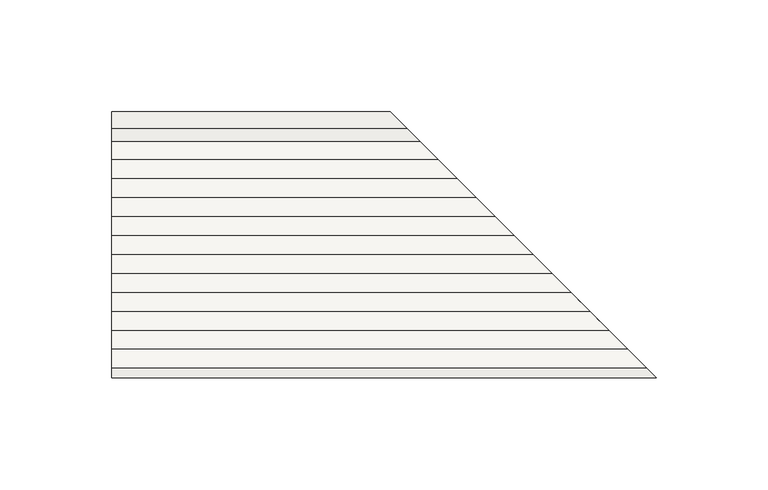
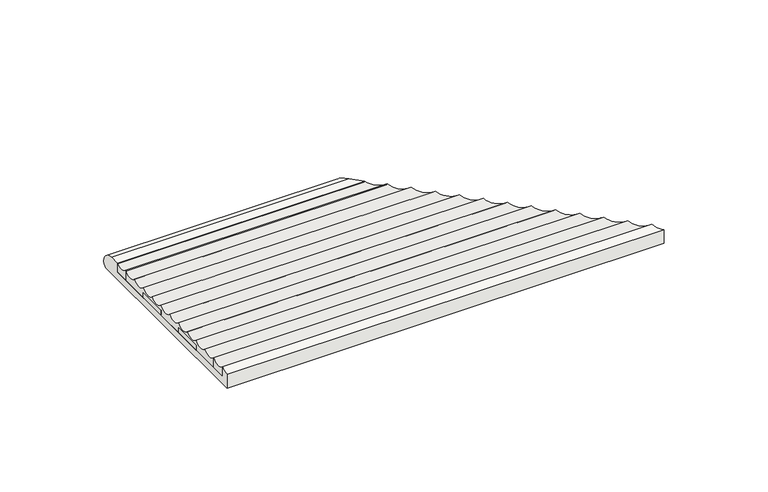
"""IFC4 building model written with IfcOpenShell, lengths in millimetres: slab geometry, ROSA GRES_003 (corte) : Pieza 003_Aqua_Marino_Anti-Slip."""

import ifcopenshell
import ifcopenshell.guid

model = None  # the IFC model being written
_history = None  # IfcOwnerHistory: only IFC2X3 demands one
_inside = {}  # id of a spatial element -> (the spatial element, [elements in it])
_under = {}  # id of a project, library or spatial element -> (it, [spatial elements below it])
_declared = {}  # id of a project -> (the project, [libraries it declares])
_typed = {}  # id of a type object -> (the type object, [elements of that type])
_made_of = {}  # id of a material, layer set ... -> (it, [elements and type objects made of it])


def new_model(schema):
    """Start an empty IFC model of exactly this schema.

    Asked for "IFC4X3", IfcOpenShell would pick the latest addendum, in which some entities
    have other attributes; the version numbers below select the first issue.
    IFC2X3 requires an IfcOwnerHistory on every rooted entity: one is made here for all.
    """
    global model, _history
    if schema == "IFC4X3":
        model = ifcopenshell.file(schema_version=(4, 3, 0, 0))
    else:
        model = ifcopenshell.file(schema=schema)
    _inside.clear()
    _under.clear()
    _declared.clear()
    _typed.clear()
    _made_of.clear()
    _history = None
    if model.schema == "IFC2X3":
        org = make("IfcOrganization", Name="unknown")
        user = make(
            "IfcPersonAndOrganization",
            ThePerson=make("IfcPerson", FamilyName="unknown"),
            TheOrganization=org,
        )
        app = make(
            "IfcApplication",
            ApplicationDeveloper=org,
            Version="unknown",
            ApplicationFullName="unknown",
            ApplicationIdentifier="unknown",
        )
        _history = make(
            "IfcOwnerHistory",
            OwningUser=user,
            OwningApplication=app,
            ChangeAction="ADDED",
            CreationDate=0,
        )
    return model


def make(cls, **values):
    """One entity of the class cls with the attributes given. An attribute that is None is left unset."""
    return model.create_entity(
        cls, **{name: value for name, value in values.items() if value is not None}
    )


def rooted(cls, **values):
    """An entity with a GlobalId (a new one), such as an element, a storey or a relation."""
    return make(cls, GlobalId=ifcopenshell.guid.new(), OwnerHistory=_history, **values)


def si_unit(unit_type, name, prefix=None):
    """IfcSIUnit, for example si_unit("LENGTHUNIT", "METRE", prefix="MILLI")."""
    return make("IfcSIUnit", UnitType=unit_type, Prefix=prefix, Name=name)


def assignment(units):
    """IfcUnitAssignment: the units of a project."""
    return None if units is None else make("IfcUnitAssignment", Units=units)


def point(xyz):
    """IfcCartesianPoint."""
    return None if xyz is None else make("IfcCartesianPoint", Coordinates=xyz)


def direction(xyz):
    """IfcDirection."""
    return None if xyz is None else make("IfcDirection", DirectionRatios=xyz)


def frame(location, z_axis=None, x_axis=None):
    """IfcAxis2Placement3D, a coordinate frame: its origin and axes. An axis left out is left unset."""
    return make(
        "IfcAxis2Placement3D",
        Location=point(location),
        Axis=direction(z_axis),
        RefDirection=direction(x_axis),
    )


def origin():
    """The frame at (0, 0, 0) with its axes left unset."""
    return frame((0.0, 0.0, 0.0))


def place(relative_to, where):
    """IfcLocalPlacement: puts the frame where relative to a parent placement (None: the world)."""
    return make(
        "IfcLocalPlacement", PlacementRelTo=relative_to, RelativePlacement=where
    )


def context(
    kind, dimensions, precision=None, world=None, true_north=None, identifier=None
):
    """IfcGeometricRepresentationContext, for example the 3D "Model" context."""
    return make(
        "IfcGeometricRepresentationContext",
        ContextIdentifier=identifier,
        ContextType=kind,
        CoordinateSpaceDimension=dimensions,
        Precision=precision,
        WorldCoordinateSystem=world,
        TrueNorth=true_north,
    )


def project(units=None, contexts=None):
    """IfcProject with its units and contexts."""
    return rooted(
        "IfcProject",
        Name="project",
        RepresentationContexts=contexts,
        UnitsInContext=assignment(units),
    )


def spatial(cls, under=None, at=None, **own):
    """A site, building, storey or space (cls), placed at a placement, below another one or the project."""
    s = rooted(cls, ObjectPlacement=at, **own)
    if under is not None:
        _under.setdefault(under.id(), (under, []))[1].append(s)
    return s


def polyline(points):
    """IfcPolyline through the points."""
    return make("IfcPolyline", Points=[point(p) for p in points])


def circle_curve(where, radius):
    """IfcCircle in the frame where."""
    return make("IfcCircle", Position=where, Radius=radius)


def ellipse_curve(where, semi_axis1, semi_axis2):
    """IfcEllipse in the frame where."""
    return make(
        "IfcEllipse", Position=where, SemiAxis1=semi_axis1, SemiAxis2=semi_axis2
    )


def faces_of(points, faces, orient=None, outer=None):
    """IfcFace entities. A face is a list of loops; a loop is a list of indices into points, from 0.

    orient and outer hold one flag for each loop. By default every Orientation is true, the
    first loop of a face is its IfcFaceOuterBound and the others are IfcFaceBound.
    """
    made = []
    for i, loops in enumerate(faces):
        bounds = []
        for j, loop in enumerate(loops):
            is_outer = j == 0 if outer is None else outer[i][j]
            bounds.append(
                make(
                    "IfcFaceOuterBound" if is_outer else "IfcFaceBound",
                    Bound=make("IfcPolyLoop", Polygon=[points[k] for k in loop]),
                    Orientation=True if orient is None else orient[i][j],
                )
            )
        made.append(make("IfcFace", Bounds=bounds))
    return made


def faceted_brep(points, faces, orient=None, outer=None, voids=None):
    """IfcFacetedBrep: a solid bounded by flat faces; with voids (closed shells), ...WithVoids."""
    shared = [point(p) for p in points]
    hull = make("IfcClosedShell", CfsFaces=faces_of(shared, faces, orient, outer))
    if voids is None:
        return make("IfcFacetedBrep", Outer=hull)
    return make(
        "IfcFacetedBrepWithVoids",
        Outer=hull,
        Voids=[
            make(cls, CfsFaces=faces_of(shared, fs, o, b)) for cls, fs, o, b in voids
        ],
    )


def shape(context_of_items, identifier, shape_type, items):
    """IfcShapeRepresentation: the items that make up one representation, for example the "Body"."""
    return make(
        "IfcShapeRepresentation",
        ContextOfItems=context_of_items,
        RepresentationIdentifier=identifier,
        RepresentationType=shape_type,
        Items=items,
    )


def source(mapping_origin, context_of_items, identifier, shape_type, items):
    """IfcRepresentationMap: a shape defined once, which mapped items show again and again."""
    return make(
        "IfcRepresentationMap",
        MappingOrigin=mapping_origin,
        MappedRepresentation=shape(context_of_items, identifier, shape_type, items),
    )


def transform(
    local_origin,
    x_axis=None,
    y_axis=None,
    z_axis=None,
    scale=None,
    scale2=None,
    scale3=None,
    uniform=True,
):
    """IfcCartesianTransformationOperator3D, or its non-uniform kind. x_axis, y_axis, z_axis: its Axis1, 2, 3."""
    if uniform:
        return make(
            "IfcCartesianTransformationOperator3D",
            Axis1=direction(x_axis),
            Axis2=direction(y_axis),
            LocalOrigin=point(local_origin),
            Scale=scale,
            Axis3=direction(z_axis),
        )
    return make(
        "IfcCartesianTransformationOperator3DnonUniform",
        Axis1=direction(x_axis),
        Axis2=direction(y_axis),
        LocalOrigin=point(local_origin),
        Scale=scale,
        Axis3=direction(z_axis),
        Scale2=scale2,
        Scale3=scale3,
    )


def mapped(mapping_source, mapping_target):
    """IfcMappedItem: shows the shape of a source again, moved by a transform."""
    return make(
        "IfcMappedItem", MappingSource=mapping_source, MappingTarget=mapping_target
    )


def made_of(thing, what):
    """Note that an element or type object is made of a material, layer set ...; save() writes the relation."""
    if what is not None:
        _made_of.setdefault(what.id(), (what, []))[1].append(thing)
    return thing


def element(
    cls,
    number,
    at=None,
    inside=None,
    cuts=None,
    type_object=None,
    material=None,
    context=None,
    identifier="Body",
    shape_type=None,
    held_by="IfcProductDefinitionShape",
    body=None,
    shapes=None,
    **own,
):
    """One element of the class cls, such as IfcWall. Its Tag is "e" and its number.

    at: its placement. inside: the storey or other place that contains it. cuts: it is an
    opening in that element (IfcRelVoidsElement). A single representation is given by context,
    identifier, shape_type and body (its items); several are given by shapes. held_by: the class
    of the entity that holds the representations. save() writes the other relations.
    """
    e = rooted(cls, Tag="e%d" % number, ObjectPlacement=at, **own)
    if body is not None:
        shapes = [shape(context, identifier, shape_type, body)]
    if shapes is not None:
        e.Representation = make(held_by, Representations=shapes)
    if inside is not None:
        _inside.setdefault(inside.id(), (inside, []))[1].append(e)
    if cuts is not None:
        rooted(
            "IfcRelVoidsElement", RelatingBuildingElement=cuts, RelatedOpeningElement=e
        )
    if type_object is not None:
        _typed.setdefault(type_object.id(), (type_object, []))[1].append(e)
    return made_of(e, material)


def aggregate(whole, parts):
    """IfcRelAggregates: a whole, such as a stair, and the parts it consists of."""
    return rooted("IfcRelAggregates", RelatingObject=whole, RelatedObjects=parts)


def save(model, path):
    """Write the relations noted so far, then the file.

    IfcRelAggregates (storeys below a building ...), IfcRelContainedInSpatialStructure (elements
    in a storey), IfcRelDefinesByType, IfcRelAssociatesMaterial and IfcRelDeclares: one each for
    every whole, place, type object, material and project.
    """
    for whole, parts in _under.values():
        aggregate(whole, parts)
    for where, things in _inside.values():
        rooted(
            "IfcRelContainedInSpatialStructure",
            RelatedElements=things,
            RelatingStructure=where,
        )
    for kind, things in _typed.values():
        rooted("IfcRelDefinesByType", RelatedObjects=things, RelatingType=kind)
    for what, things in _made_of.values():
        rooted("IfcRelAssociatesMaterial", RelatedObjects=things, RelatingMaterial=what)
    for by, libraries in _declared.values():
        rooted("IfcRelDeclares", RelatingContext=by, RelatedDefinitions=libraries)
    model.write(path)


def plane_surface(at):
    """IfcPlane: the flat surface through the origin of the frame at, square to its z axis."""
    return make("IfcPlane", Position=at)


def cylinder_surface(at, radius):
    """IfcCylindricalSurface: all points at the distance radius from the z axis of the frame at."""
    return make("IfcCylindricalSurface", Position=at, Radius=radius)


def revolved_surface(curve, axis_point, axis_direction):
    """IfcSurfaceOfRevolution: the curve turned about the line through axis_point along axis_direction."""
    return make(
        "IfcSurfaceOfRevolution",
        SweptCurve=make("IfcArbitraryOpenProfileDef", ProfileType="CURVE", Curve=curve),
        AxisPosition=make("IfcAxis1Placement", Location=point(axis_point), Axis=direction(axis_direction)),
    )


def advanced_brep(points, edges, surfaces, faces):
    """IfcAdvancedBrep: a solid bounded by faces that lie on surfaces and meet in shared edges.

    An edge is (start, end): straight between two places in points (the first is 0);
    or (start, end, curve); or (start, end, curve, False) where it runs against its curve.
    A face is (place in surfaces, loops), or (place, loops, False) where it looks against
    its surface's normal. A loop lists edges by number (the first is 1), with a minus sign
    where the edge is run from its end to its start. The first loop is the outer one.
    """
    corners = [point(p) for p in points]
    vertices = [make("IfcVertexPoint", VertexGeometry=c) for c in corners]
    made = []
    for start, end, *more in edges:
        made.append(
            make(
                "IfcEdgeCurve",
                EdgeStart=vertices[start],
                EdgeEnd=vertices[end],
                EdgeGeometry=more[0] if more else make("IfcPolyline", Points=[corners[start], corners[end]]),
                SameSense=more[1] if len(more) > 1 else True,
            )
        )
    hull = []
    for where, loops, *sense in faces:
        bounds = []
        for j, loop in enumerate(loops):
            ring = [make("IfcOrientedEdge", EdgeElement=made[abs(k) - 1], Orientation=k > 0) for k in loop]
            bounds.append(
                make(
                    "IfcFaceOuterBound" if j == 0 else "IfcFaceBound",
                    Bound=make("IfcEdgeLoop", EdgeList=ring),
                    Orientation=True,
                )
            )
        hull.append(make("IfcAdvancedFace", Bounds=bounds, FaceSurface=surfaces[where], SameSense=sense[0] if sense else True))
    return make("IfcAdvancedBrep", Outer=make("IfcClosedShell", CfsFaces=hull))


def slab_e21bdb14(model_context):
    return source(origin(), model_context, "Body", "SolidModel", [
        advanced_brep(
        [(0.0, -7.6663965, 9.4971975), (0.0, -0.0244803, 2.9846331), (0.0, -0.5667365, 1.309592), (0.0, -1.8763284, 0.0), (0.0, -118.9413691, 0.0), (0.0, -118.9413691, 8.0603545), (0.0, -114.6668888, 10.0472945), (0.0, -114.6668888, 4.0921512), (0.0, -13.1748183, 4.0921512), (0.0, -13.1748183, 9.4971975), (137.7334492, -13.1748183, 9.4971975), (132.2250275, -7.6663965, 9.4971975), (243.5, -118.9413691, 8.0603545), (239.2255197, -114.6668888, 10.0472945), (243.5, -118.9413691, 0.0), (126.4349593, -1.8763284, 0.0), (125.1253674, -0.5667365, 1.309592), (124.5831112, -0.0244803, 2.9846331), (137.7334492, -13.1748183, 4.0921512), (239.2255197, -114.6668888, 4.0921512)],
        [
            (0, 1, circle_curve(frame((0.0, -7.6663965, 1.7573601), z_axis=(-1.0, 0.0, 0.0), x_axis=(0.0, -1.0, 0.0)), 7.7398374)),
            (1, 2, circle_curve(frame((0.0, -1.9349594, 2.6778148), z_axis=(-1.0, 0.0, 0.0), x_axis=(0.0, -1.0, 0.0)), 1.9349594)),
            (2, 3),
            (3, 4),
            (4, 5),
            (5, 6, circle_curve(frame((0.0, -118.9413691, 13.6516438), z_axis=(1.0, 0.0, 0.0), x_axis=(0.0, -1.0, 0.0)), 5.5912893)),
            (6, 7),
            (7, 8),
            (8, 9),
            (9, 0),
            (9, 10),
            (10, 11),
            (11, 0),
            (5, 12),
            (12, 13, ellipse_curve(frame((243.5, -118.9413691, 13.6516438), z_axis=(0.7071067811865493, 0.7071067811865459, 0.0), x_axis=(0.7071067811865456, -0.7071067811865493, 0.0)), 7.9072771, 5.5912893)),
            (13, 6),
            (4, 14),
            (14, 12),
            (3, 15),
            (15, 14),
            (2, 16),
            (16, 15),
            (1, 17),
            (17, 16, ellipse_curve(frame((126.4935903, -1.9349594, 2.6778148), z_axis=(-0.7071067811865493, -0.7071067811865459, 0.0), x_axis=(-0.7071067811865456, 0.7071067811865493, 0.0)), 2.7364458, 1.9349594)),
            (11, 17, ellipse_curve(frame((132.2250275, -7.6663965, 1.7573601), z_axis=(-0.7071067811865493, -0.7071067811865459, 0.0), x_axis=(-0.7071067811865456, 0.7071067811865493, 0.0)), 10.945783, 7.7398374)),
            (8, 18),
            (18, 10),
            (7, 19),
            (19, 18),
            (13, 19),
        ],
        [
            plane_surface(frame((0.0, 0.0, 0.0), z_axis=(-1.0, 0.0, 0.0), x_axis=(0.0, 0.0, 1.0))),
            plane_surface(frame((0.0, -7.6663965, 9.4971975), z_axis=(0.0, 0.0, 1.0), x_axis=(1.0, 0.0, 0.0))),
            revolved_surface(polyline([(249.09128925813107, -124.5326584, 13.6516438), (0.0, -124.5326584, 13.6516438)]), (0.0, -118.9413691, 13.6516438), (1.0, 0.0, 0.0)),
            plane_surface(frame((0.0, -118.9413691, 8.0603545), z_axis=(0.0, -1.0, 0.0), x_axis=(1.0, 0.0, 0.0))),
            plane_surface(frame((0.0, -118.9413691, 0.0), z_axis=(0.0, 0.0, -1.0), x_axis=(1.0, 0.0, 0.0))),
            plane_surface(frame((0.0, -1.8763284, 0.0), z_axis=(0.0, 0.707106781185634, -0.7071067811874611), x_axis=(1.0, 0.0, 0.0))),
            cylinder_surface(frame((0.0, -1.9349594, 2.6778148), z_axis=(-1.0, 0.0, 0.0), x_axis=(0.0, -1.0, 0.0)), 1.9349594),
            cylinder_surface(frame((0.0, -7.6663965, 1.7573601), z_axis=(-1.0, 0.0, 0.0), x_axis=(0.0, -1.0, 0.0)), 7.7398374),
            plane_surface(frame((0.0, -13.1748183, 9.4971975), z_axis=(0.0, -1.0, 0.0), x_axis=(1.0, 0.0, 0.0))),
            plane_surface(frame((0.0, -13.1748183, 4.0921512), z_axis=(0.0, 0.0, 1.0), x_axis=(1.0, 0.0, 0.0))),
            plane_surface(frame((0.0, -114.6668888, 4.0921512), z_axis=(0.0, 1.0, 0.0), x_axis=(1.0, 0.0, 0.0))),
            plane_surface(frame((244.0, -119.4413691, 104.9871832), z_axis=(0.7071067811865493, 0.7071067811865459, 0.0), x_axis=(0.0, 0.0, -1.0))),
        ],
        [
            (0, [[1, 2, 3, 4, 5, 6, 7, 8, 9, 10]]),
            (1, [[11, 12, 13, -10]]),
            (2, [[14, 15, 16, -6]]),
            (3, [[17, 18, -14, -5]]),
            (4, [[19, 20, -17, -4]]),
            (5, [[21, 22, -19, -3]]),
            (6, [[23, 24, -21, -2]]),
            (7, [[-13, 25, -23, -1]]),
            (8, [[26, 27, -11, -9]]),
            (9, [[28, 29, -26, -8]]),
            (10, [[-16, 30, -28, -7]]),
            (11, [[-27, -29, -30, -15, -18, -20, -22, -24, -25, -12]]),
        ],
    ),
        advanced_brep(
        [(0.0, -13.1748183, 9.5193792), (0.0, -13.1748183, 4.0921512), (0.0, -21.1668888, 4.0921512), (0.0, -21.1668888, 9.9900186), (145.7255197, -21.1668888, 9.9900186), (137.7334492, -13.1748183, 9.5193792), (145.7255197, -21.1668888, 4.0921512), (137.7334492, -13.1748183, 4.0921512)],
        [
            (0, 1),
            (1, 2),
            (2, 3),
            (3, 0, circle_curve(frame((0.0, -16.9413691, 13.6516438), z_axis=(1.0, 0.0, 0.0), x_axis=(0.0, -1.0, 0.0)), 5.5912893)),
            (3, 4),
            (4, 5, ellipse_curve(frame((141.5, -16.9413691, 13.6516438), z_axis=(0.7071067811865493, 0.7071067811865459, 0.0), x_axis=(0.7071067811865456, -0.7071067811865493, 0.0)), 7.9072771, 5.5912893)),
            (5, 0),
            (2, 6),
            (6, 4),
            (1, 7),
            (7, 6),
            (5, 7),
        ],
        [
            plane_surface(frame((0.0, 0.0, 0.0), z_axis=(-1.0, 0.0, 0.0), x_axis=(0.0, 0.0, 1.0))),
            revolved_surface(polyline([(147.09128925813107, -22.5326584, 13.6516438), (0.0, -22.5326584, 13.6516438)]), (0.0, -16.9413691, 13.6516438), (1.0, 0.0, 0.0)),
            plane_surface(frame((0.0, -21.1668888, 9.9900186), z_axis=(0.0, -1.0, 0.0), x_axis=(1.0, 0.0, 0.0))),
            plane_surface(frame((0.0, -21.1668888, 4.0921512), z_axis=(0.0, 0.0, -1.0), x_axis=(1.0, 0.0, 0.0))),
            plane_surface(frame((0.0, -13.1748183, 4.0921512), z_axis=(0.0, 1.0, 0.0), x_axis=(1.0, 0.0, 0.0))),
            plane_surface(frame((244.0, -119.4413691, 104.9871832), z_axis=(0.7071067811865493, 0.7071067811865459, 0.0), x_axis=(0.0, 0.0, -1.0))),
        ],
        [
            (0, [[1, 2, 3, 4]]),
            (1, [[5, 6, 7, -4]]),
            (2, [[8, 9, -5, -3]]),
            (3, [[10, 11, -8, -2]]),
            (4, [[-7, 12, -10, -1]]),
            (5, [[-9, -11, -12, -6]]),
        ],
    ),
        advanced_brep(
        [(0.0, -106.1668888, 10.0472945), (0.0, -106.1668888, 4.0921512), (0.0, -114.6913691, 4.0921512), (0.0, -114.6913691, 10.0184612), (239.25, -114.6913691, 10.0184612), (230.7255197, -106.1668888, 10.0472945), (230.7255197, -106.1668888, 4.0921512), (239.25, -114.6913691, 4.0921512)],
        [
            (0, 1),
            (1, 2),
            (2, 3),
            (3, 0, circle_curve(frame((0.0, -110.4413691, 13.6516438), z_axis=(1.0, 0.0, 0.0), x_axis=(0.0, -1.0, 0.0)), 5.5912893)),
            (3, 4),
            (4, 5, ellipse_curve(frame((235.0, -110.4413691, 13.6516438), z_axis=(0.7071067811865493, 0.7071067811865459, 0.0), x_axis=(0.7071067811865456, -0.7071067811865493, 0.0)), 7.9072771, 5.5912893)),
            (5, 0),
            (1, 6),
            (6, 7),
            (7, 2),
            (5, 6),
            (7, 4),
        ],
        [
            plane_surface(frame((0.0, 0.0, 0.0), z_axis=(-1.0, 0.0, 0.0), x_axis=(0.0, 0.0, 1.0))),
            revolved_surface(polyline([(240.59128925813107, -116.0326584, 13.6516438), (0.0, -116.0326584, 13.6516438)]), (0.0, -110.4413691, 13.6516438), (1.0, 0.0, 0.0)),
            plane_surface(frame((0.0, -114.6913691, 4.0921512), z_axis=(0.0, 0.0, -1.0), x_axis=(1.0, 0.0, 0.0))),
            plane_surface(frame((0.0, -106.1668888, 4.0921512), z_axis=(0.0, 1.0, 0.0), x_axis=(1.0, 0.0, 0.0))),
            plane_surface(frame((0.0, -114.6913691, 10.0184612), z_axis=(0.0, -1.0, 0.0), x_axis=(1.0, 0.0, 0.0))),
            plane_surface(frame((244.0, -119.4413691, 104.9871832), z_axis=(0.7071067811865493, 0.7071067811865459, 0.0), x_axis=(0.0, 0.0, -1.0))),
        ],
        [
            (0, [[1, 2, 3, 4]]),
            (1, [[5, 6, 7, -4]]),
            (2, [[8, 9, 10, -2]]),
            (3, [[-7, 11, -8, -1]]),
            (4, [[-10, 12, -5, -3]]),
            (5, [[-12, -9, -11, -6]]),
        ],
    ),
        faceted_brep([(0.0, -38.1668888, 4.0921512), (0.0, -55.1668888, 4.0921512), (0.0, -55.1668888, 7.0184612), (0.0, -38.1668888, 7.0184612), (162.7255197, -38.1668888, 7.0184612), (162.7255197, -38.1668888, 4.0921512), (179.7255197, -55.1668888, 7.0184612), (179.7255197, -55.1668888, 4.0921512)], [[[0, 1, 2, 3]], [[3, 4, 5, 0]], [[2, 6, 4, 3]], [[1, 7, 6, 2]], [[0, 5, 7, 1]], [[4, 6, 7, 5]]]),
        faceted_brep([(0.0, -72.1668888, 4.0921512), (0.0, -89.1668888, 4.0921512), (0.0, -89.1668888, 7.0184612), (0.0, -72.1668888, 7.0184612), (196.7255197, -72.1668888, 4.0921512), (213.7255197, -89.1668888, 4.0921512), (196.7255197, -72.1668888, 7.0184612), (213.7255197, -89.1668888, 7.0184612)], [[[0, 1, 2, 3]], [[0, 4, 5, 1]], [[3, 6, 4, 0]], [[2, 7, 6, 3]], [[1, 5, 7, 2]], [[4, 6, 7, 5]]]),
        advanced_brep(
        [(0.0, -21.1668888, 10.0472945), (0.0, -21.1668888, 4.0921512), (0.0, -38.1668888, 4.0921512), (0.0, -38.1668888, 7.0184612), (0.0, -55.1668888, 7.0184612), (0.0, -55.1668888, 4.0921512), (0.0, -72.1668888, 4.0921512), (0.0, -72.1668888, 7.0184612), (0.0, -89.1668888, 7.0184612), (0.0, -89.1668888, 4.0921512), (0.0, -106.1668888, 4.0921512), (0.0, -106.1668888, 9.9900186), (0.0, -97.6913691, 10.0184612), (0.0, -89.1913691, 10.0184612), (0.0, -80.6913691, 10.0184612), (0.0, -72.1913691, 10.0184612), (0.0, -63.6913691, 10.0184612), (0.0, -55.1913691, 10.0184612), (0.0, -46.6913691, 10.0184612), (0.0, -38.1913691, 10.0184612), (0.0, -29.6913691, 10.0184612), (154.25, -29.6913691, 10.0184612), (145.7255197, -21.1668888, 10.0472945), (162.75, -38.1913691, 10.0184612), (171.25, -46.6913691, 10.0184612), (179.75, -55.1913691, 10.0184612), (188.25, -63.6913691, 10.0184612), (196.75, -72.1913691, 10.0184612), (205.25, -80.6913691, 10.0184612), (213.75, -89.1913691, 10.0184612), (222.25, -97.6913691, 10.0184612), (230.7255197, -106.1668888, 9.9900186), (230.7255197, -106.1668888, 4.0921512), (213.7255197, -89.1668888, 4.0921512), (213.7255197, -89.1668888, 7.0184612), (196.7255197, -72.1668888, 7.0184612), (196.7255197, -72.1668888, 4.0921512), (179.7255197, -55.1668888, 4.0921512), (179.7255197, -55.1668888, 7.0184612), (162.7255197, -38.1668888, 7.0184612), (162.7255197, -38.1668888, 4.0921512), (145.7255197, -21.1668888, 4.0921512)],
        [
            (0, 1),
            (1, 2),
            (2, 3),
            (3, 4),
            (4, 5),
            (5, 6),
            (6, 7),
            (7, 8),
            (8, 9),
            (9, 10),
            (10, 11),
            (11, 12, circle_curve(frame((0.0, -101.9413691, 13.6516438), z_axis=(1.0, 0.0, 0.0), x_axis=(0.0, -1.0, 0.0)), 5.5912893)),
            (12, 13, circle_curve(frame((0.0, -93.4413691, 13.6516438), z_axis=(1.0, 0.0, 0.0), x_axis=(0.0, -1.0, 0.0)), 5.5912893)),
            (13, 14, circle_curve(frame((0.0, -84.9413691, 13.6516438), z_axis=(1.0, 0.0, 0.0), x_axis=(0.0, -1.0, 0.0)), 5.5912893)),
            (14, 15, circle_curve(frame((0.0, -76.4413691, 13.6516438), z_axis=(1.0, 0.0, 0.0), x_axis=(0.0, -1.0, 0.0)), 5.5912893)),
            (15, 16, circle_curve(frame((0.0, -67.9413691, 13.6516438), z_axis=(1.0, 0.0, 0.0), x_axis=(0.0, -1.0, 0.0)), 5.5912893)),
            (16, 17, circle_curve(frame((0.0, -59.4413691, 13.6516438), z_axis=(1.0, 0.0, 0.0), x_axis=(0.0, -1.0, 0.0)), 5.5912893)),
            (17, 18, circle_curve(frame((0.0, -50.9413691, 13.6516438), z_axis=(1.0, 0.0, 0.0), x_axis=(0.0, -1.0, 0.0)), 5.5912893)),
            (18, 19, circle_curve(frame((0.0, -42.4413691, 13.6516438), z_axis=(1.0, 0.0, 0.0), x_axis=(0.0, -1.0, 0.0)), 5.5912893)),
            (19, 20, circle_curve(frame((0.0, -33.9413691, 13.6516438), z_axis=(1.0, 0.0, 0.0), x_axis=(0.0, -1.0, 0.0)), 5.5912893)),
            (20, 0, circle_curve(frame((0.0, -25.4413691, 13.6516438), z_axis=(1.0, 0.0, 0.0), x_axis=(0.0, -1.0, 0.0)), 5.5912893)),
            (20, 21),
            (21, 22, ellipse_curve(frame((150.0, -25.4413691, 13.6516438), z_axis=(0.7071067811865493, 0.7071067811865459, 0.0), x_axis=(0.7071067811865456, -0.7071067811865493, 0.0)), 7.9072771, 5.5912893)),
            (22, 0),
            (19, 23),
            (23, 21, ellipse_curve(frame((158.5, -33.9413691, 13.6516438), z_axis=(0.7071067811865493, 0.7071067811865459, 0.0), x_axis=(0.7071067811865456, -0.7071067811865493, 0.0)), 7.9072771, 5.5912893)),
            (18, 24),
            (24, 23, ellipse_curve(frame((167.0, -42.4413691, 13.6516438), z_axis=(0.7071067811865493, 0.7071067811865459, 0.0), x_axis=(0.7071067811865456, -0.7071067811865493, 0.0)), 7.9072771, 5.5912893)),
            (17, 25),
            (25, 24, ellipse_curve(frame((175.5, -50.9413691, 13.6516438), z_axis=(0.7071067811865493, 0.7071067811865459, 0.0), x_axis=(0.7071067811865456, -0.7071067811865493, 0.0)), 7.9072771, 5.5912893)),
            (16, 26),
            (26, 25, ellipse_curve(frame((184.0, -59.4413691, 13.6516438), z_axis=(0.7071067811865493, 0.7071067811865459, 0.0), x_axis=(0.7071067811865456, -0.7071067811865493, 0.0)), 7.9072771, 5.5912893)),
            (15, 27),
            (27, 26, ellipse_curve(frame((192.5, -67.9413691, 13.6516438), z_axis=(0.7071067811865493, 0.7071067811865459, 0.0), x_axis=(0.7071067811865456, -0.7071067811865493, 0.0)), 7.9072771, 5.5912893)),
            (14, 28),
            (28, 27, ellipse_curve(frame((201.0, -76.4413691, 13.6516438), z_axis=(0.7071067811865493, 0.7071067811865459, 0.0), x_axis=(0.7071067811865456, -0.7071067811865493, 0.0)), 7.9072771, 5.5912893)),
            (13, 29),
            (29, 28, ellipse_curve(frame((209.5, -84.9413691, 13.6516438), z_axis=(0.7071067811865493, 0.7071067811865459, 0.0), x_axis=(0.7071067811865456, -0.7071067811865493, 0.0)), 7.9072771, 5.5912893)),
            (12, 30),
            (30, 29, ellipse_curve(frame((218.0, -93.4413691, 13.6516438), z_axis=(0.7071067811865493, 0.7071067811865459, 0.0), x_axis=(0.7071067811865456, -0.7071067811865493, 0.0)), 7.9072771, 5.5912893)),
            (11, 31),
            (31, 30, ellipse_curve(frame((226.5, -101.9413691, 13.6516438), z_axis=(0.7071067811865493, 0.7071067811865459, 0.0), x_axis=(0.7071067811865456, -0.7071067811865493, 0.0)), 7.9072771, 5.5912893)),
            (10, 32),
            (32, 31),
            (9, 33),
            (33, 32),
            (8, 34),
            (34, 33),
            (7, 35),
            (35, 34),
            (6, 36),
            (36, 35),
            (5, 37),
            (37, 36),
            (4, 38),
            (38, 37),
            (3, 39),
            (39, 38),
            (2, 40),
            (40, 39),
            (1, 41),
            (41, 40),
            (22, 41),
        ],
        [
            plane_surface(frame((0.0, 0.0, 0.0), z_axis=(-1.0, 0.0, 0.0), x_axis=(0.0, 0.0, 1.0))),
            revolved_surface(polyline([(155.59128925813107, -31.0326584, 13.6516438), (0.0, -31.0326584, 13.6516438)]), (0.0, -25.4413691, 13.6516438), (1.0, 0.0, 0.0)),
            revolved_surface(polyline([(164.09128925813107, -39.5326584, 13.6516438), (0.0, -39.5326584, 13.6516438)]), (0.0, -33.9413691, 13.6516438), (1.0, 0.0, 0.0)),
            revolved_surface(polyline([(172.59128925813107, -48.0326584, 13.6516438), (0.0, -48.0326584, 13.6516438)]), (0.0, -42.4413691, 13.6516438), (1.0, 0.0, 0.0)),
            revolved_surface(polyline([(181.09128925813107, -56.5326584, 13.6516438), (0.0, -56.5326584, 13.6516438)]), (0.0, -50.9413691, 13.6516438), (1.0, 0.0, 0.0)),
            revolved_surface(polyline([(189.59128925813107, -65.0326584, 13.6516438), (0.0, -65.0326584, 13.6516438)]), (0.0, -59.4413691, 13.6516438), (1.0, 0.0, 0.0)),
            revolved_surface(polyline([(198.09128925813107, -73.5326584, 13.6516438), (0.0, -73.5326584, 13.6516438)]), (0.0, -67.9413691, 13.6516438), (1.0, 0.0, 0.0)),
            revolved_surface(polyline([(206.59128925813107, -82.0326584, 13.6516438), (0.0, -82.0326584, 13.6516438)]), (0.0, -76.4413691, 13.6516438), (1.0, 0.0, 0.0)),
            revolved_surface(polyline([(215.09128925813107, -90.5326584, 13.6516438), (0.0, -90.5326584, 13.6516438)]), (0.0, -84.9413691, 13.6516438), (1.0, 0.0, 0.0)),
            revolved_surface(polyline([(223.59128925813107, -99.0326584, 13.6516438), (0.0, -99.0326584, 13.6516438)]), (0.0, -93.4413691, 13.6516438), (1.0, 0.0, 0.0)),
            revolved_surface(polyline([(232.09128925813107, -107.5326584, 13.6516438), (0.0, -107.5326584, 13.6516438)]), (0.0, -101.9413691, 13.6516438), (1.0, 0.0, 0.0)),
            plane_surface(frame((0.0, -106.1668888, 9.9900186), z_axis=(0.0, -1.0, 0.0), x_axis=(1.0, 0.0, 0.0))),
            plane_surface(frame((0.0, -106.1668888, 4.0921512), z_axis=(0.0, 0.0, -1.0), x_axis=(1.0, 0.0, 0.0))),
            plane_surface(frame((0.0, -89.1668888, 4.0921512), z_axis=(0.0, 1.0, 0.0), x_axis=(1.0, 0.0, 0.0))),
            plane_surface(frame((0.0, -89.1668888, 7.0184612), z_axis=(0.0, 0.0, -1.0), x_axis=(1.0, 0.0, 0.0))),
            plane_surface(frame((0.0, -72.1668888, 7.0184612), z_axis=(0.0, -1.0, 0.0), x_axis=(1.0, 0.0, 0.0))),
            plane_surface(frame((0.0, -72.1668888, 4.0921512), z_axis=(0.0, 0.0, -1.0), x_axis=(1.0, 0.0, 0.0))),
            plane_surface(frame((0.0, -55.1668888, 4.0921512), z_axis=(0.0, 1.0, 0.0), x_axis=(1.0, 0.0, 0.0))),
            plane_surface(frame((0.0, -55.1668888, 7.0184612), z_axis=(0.0, 0.0, -1.0), x_axis=(1.0, 0.0, 0.0))),
            plane_surface(frame((0.0, -38.1668888, 7.0184612), z_axis=(0.0, -1.0, 0.0), x_axis=(1.0, 0.0, 0.0))),
            plane_surface(frame((0.0, -38.1668888, 4.0921512), z_axis=(0.0, 0.0, -1.0), x_axis=(1.0, 0.0, 0.0))),
            plane_surface(frame((0.0, -21.1668888, 4.0921512), z_axis=(0.0, 1.0, 0.0), x_axis=(1.0, 0.0, 0.0))),
            plane_surface(frame((244.0, -119.4413691, 104.9871832), z_axis=(0.7071067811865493, 0.7071067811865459, 0.0), x_axis=(0.0, 0.0, -1.0))),
        ],
        [
            (0, [[1, 2, 3, 4, 5, 6, 7, 8, 9, 10, 11, 12, 13, 14, 15, 16, 17, 18, 19, 20, 21]]),
            (1, [[22, 23, 24, -21]]),
            (2, [[25, 26, -22, -20]]),
            (3, [[27, 28, -25, -19]]),
            (4, [[29, 30, -27, -18]]),
            (5, [[31, 32, -29, -17]]),
            (6, [[33, 34, -31, -16]]),
            (7, [[35, 36, -33, -15]]),
            (8, [[37, 38, -35, -14]]),
            (9, [[39, 40, -37, -13]]),
            (10, [[41, 42, -39, -12]]),
            (11, [[43, 44, -41, -11]]),
            (12, [[45, 46, -43, -10]]),
            (13, [[47, 48, -45, -9]]),
            (14, [[49, 50, -47, -8]]),
            (15, [[51, 52, -49, -7]]),
            (16, [[53, 54, -51, -6]]),
            (17, [[55, 56, -53, -5]]),
            (18, [[57, 58, -55, -4]]),
            (19, [[59, 60, -57, -3]]),
            (20, [[61, 62, -59, -2]]),
            (21, [[-24, 63, -61, -1]]),
            (22, [[-26, -28, -30, -32, -34, -36, -38, -40, -42, -44, -46, -48, -50, -52, -54, -56, -58, -60, -62, -63, -23]]),
        ],
    ),
    ])


if __name__ == "__main__":
    model = new_model("IFC4")
    model_context = context("Model", 3, world=origin())
    ifc_project = project(units=[si_unit("LENGTHUNIT", "METRE", prefix="MILLI")], contexts=[model_context])
    site = spatial("IfcSite", under=ifc_project)
    building = spatial("IfcBuilding", under=site)
    placement = place(None, origin())
    slab_shape = slab_e21bdb14(model_context)
    element("IfcSlab", 1, ObjectType="ROSA GRES_003 (corte) : Pieza 003_Aqua_Marino_Anti-Slip", at=placement, inside=building, context=model_context, shape_type="MappedRepresentation", body=[
        mapped(slab_shape, transform((0.0, 0.0, 0.0), x_axis=(1.0, 0.0, 0.0), y_axis=(0.0, 1.0, 0.0), z_axis=(0.0, 0.0, 1.0))),
    ])
    save(model, "model.ifc")
